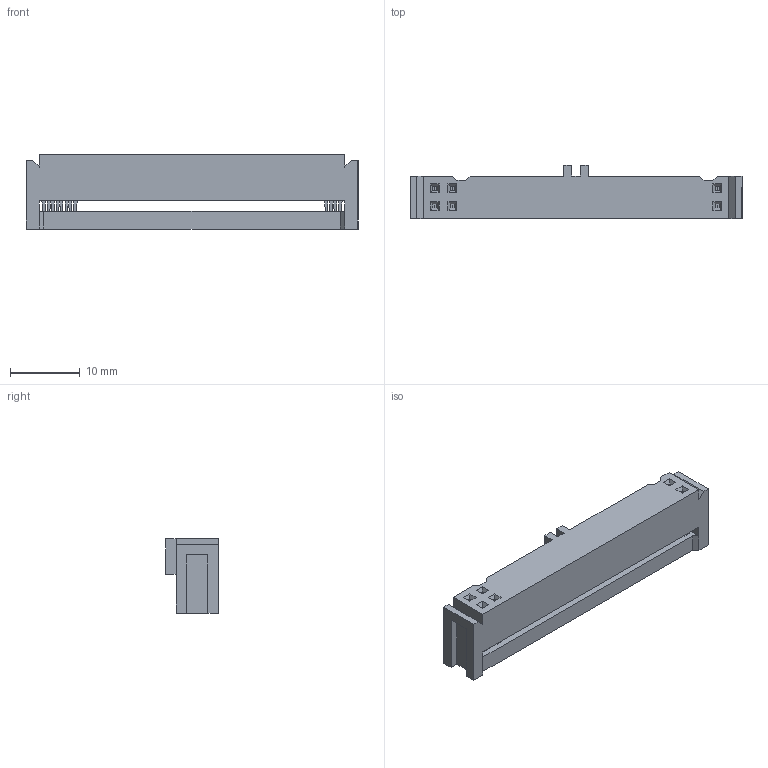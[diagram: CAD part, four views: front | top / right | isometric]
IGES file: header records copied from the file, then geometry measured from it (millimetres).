
Start section: Comment
Global section: file name: 89134-0101_se.igs; native system:  By Spatial Corp. IGES DAT; preprocessor: XIGES V1.0; author: Author; organization: Title; date: 20060105.085722; units: metre
Bounding box: 47.75 x 7.62 x 10.67 mm (x, y, z)
Surface area: 2260.7 mm2 (no closed solid volume)
Topology: 0 solids, 0 shells, 151 faces, 838 edges, 838 vertices
Faces by surface type: extrusion 151
